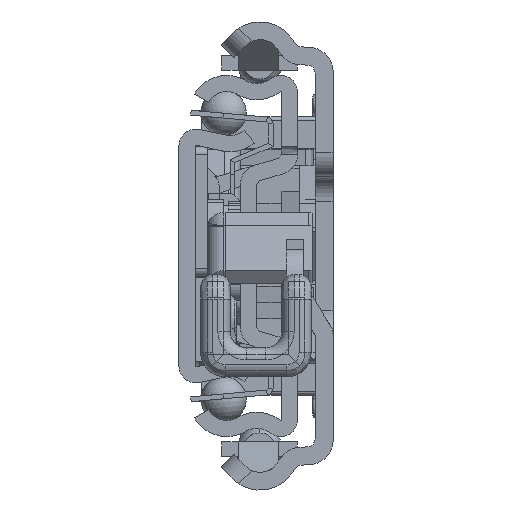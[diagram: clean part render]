
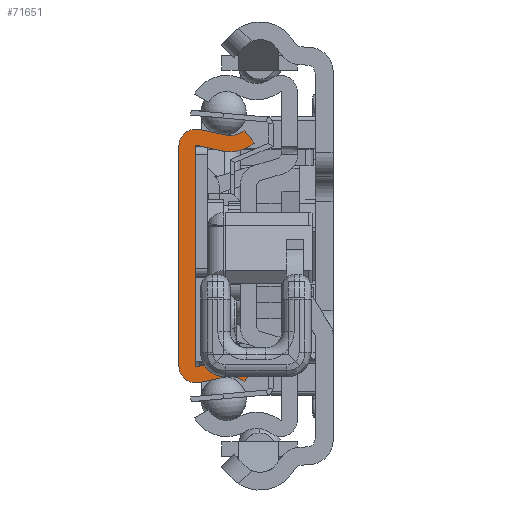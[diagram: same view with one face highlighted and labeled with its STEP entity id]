
A CAD part, left-side view. The second image highlights one B-rep face of the part: STEP entity #71651.
In plain terms, the highlighted planar face has unit normal (-1, 0, 0).
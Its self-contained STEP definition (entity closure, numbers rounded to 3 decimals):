
#66412=CARTESIAN_POINT('',(0.,-6.29,-17.65));
#66413=DIRECTION('',(-1.,0.,0.));
#66414=DIRECTION('',(0.,-0.629,0.778));
#66415=AXIS2_PLACEMENT_3D('',#66412,#66413,#66414);
#66417=DIRECTION('',(0.,0.977,-0.213));
#66418=VECTOR('',#66417,3.218);
#66419=CARTESIAN_POINT('',(0.,-5.692,-14.915));
#66420=LINE('',#66419,#66418);
#66421=CARTESIAN_POINT('',(0.,-2.1,-13.55));
#66422=DIRECTION('',(1.,0.,0.));
#66423=DIRECTION('',(0.,-0.213,-0.977));
#66424=AXIS2_PLACEMENT_3D('',#66421,#66422,#66423);
#66426=DIRECTION('',(0.,0.,1.));
#66427=VECTOR('',#66426,27.1);
#66428=CARTESIAN_POINT('',(0.,0.,-13.55));
#66429=LINE('',#66428,#66427);
#66430=CARTESIAN_POINT('',(0.,-2.1,13.55));
#66431=DIRECTION('',(1.,0.,0.));
#66432=DIRECTION('',(0.,1.,0.));
#66433=AXIS2_PLACEMENT_3D('',#66430,#66431,#66432);
#66435=DIRECTION('',(0.,-0.977,-0.213));
#66436=VECTOR('',#66435,3.218);
#66437=CARTESIAN_POINT('',(0.,-2.548,15.602));
#66438=LINE('',#66437,#66436);
#66439=CARTESIAN_POINT('',(0.,-6.29,17.65));
#66440=DIRECTION('',(-1.,0.,0.));
#66441=DIRECTION('',(0.,0.213,-0.977));
#66442=AXIS2_PLACEMENT_3D('',#66439,#66440,#66441);
#66444=DIRECTION('',(0.,-0.629,-0.778));
#66445=VECTOR('',#66444,2.);
#66446=CARTESIAN_POINT('',(0.,-8.05,15.472));
#66447=LINE('',#66446,#66445);
#66448=CARTESIAN_POINT('',(0.,-6.29,17.65));
#66449=DIRECTION('',(1.,0.,0.));
#66450=DIRECTION('',(0.,-0.629,-0.778));
#66451=AXIS2_PLACEMENT_3D('',#66448,#66449,#66450);
#66453=DIRECTION('',(0.,0.977,0.213));
#66454=VECTOR('',#66453,3.218);
#66455=CARTESIAN_POINT('',(0.,-5.265,12.961));
#66456=LINE('',#66455,#66454);
#66457=CARTESIAN_POINT('',(0.,-2.1,13.55));
#66458=DIRECTION('',(-1.,0.,0.));
#66459=DIRECTION('',(0.,-0.213,0.977));
#66460=AXIS2_PLACEMENT_3D('',#66457,#66458,#66459);
#66462=DIRECTION('',(0.,0.,-1.));
#66463=VECTOR('',#66462,27.1);
#66464=CARTESIAN_POINT('',(0.,-2.,13.55));
#66465=LINE('',#66464,#66463);
#66466=CARTESIAN_POINT('',(0.,-2.1,-13.55));
#66467=DIRECTION('',(-1.,0.,0.));
#66468=DIRECTION('',(0.,1.,0.));
#66469=AXIS2_PLACEMENT_3D('',#66466,#66467,#66468);
#66471=DIRECTION('',(0.,-0.977,0.213));
#66472=VECTOR('',#66471,3.218);
#66473=CARTESIAN_POINT('',(0.,-2.121,-13.648));
#66474=LINE('',#66473,#66472);
#66475=CARTESIAN_POINT('',(0.,-6.29,-17.65));
#66476=DIRECTION('',(1.,0.,0.));
#66477=DIRECTION('',(0.,0.213,0.977));
#66478=AXIS2_PLACEMENT_3D('',#66475,#66476,#66477);
#66480=DIRECTION('',(0.,0.629,-0.778));
#66481=VECTOR('',#66480,2.);
#66482=CARTESIAN_POINT('',(0.,-9.307,-13.917));
#66483=LINE('',#66482,#66481);
#70104=CARTESIAN_POINT('',(0.,-8.05,-15.472));
#70105=CARTESIAN_POINT('',(0.,-5.692,-14.915));
#70106=VERTEX_POINT('',#70104);
#70107=VERTEX_POINT('',#70105);
#70108=CARTESIAN_POINT('',(0.,-2.548,-15.602));
#70109=VERTEX_POINT('',#70108);
#70110=CARTESIAN_POINT('',(0.,0.,-13.55));
#70111=VERTEX_POINT('',#70110);
#70112=CARTESIAN_POINT('',(0.,0.,13.55));
#70113=VERTEX_POINT('',#70112);
#70114=CARTESIAN_POINT('',(0.,-2.548,15.602));
#70115=VERTEX_POINT('',#70114);
#70116=CARTESIAN_POINT('',(0.,-5.692,14.915));
#70117=VERTEX_POINT('',#70116);
#70118=CARTESIAN_POINT('',(0.,-8.05,15.472));
#70119=VERTEX_POINT('',#70118);
#70120=CARTESIAN_POINT('',(0.,-9.307,13.917));
#70121=VERTEX_POINT('',#70120);
#70122=CARTESIAN_POINT('',(0.,-5.265,12.961));
#70123=VERTEX_POINT('',#70122);
#70124=CARTESIAN_POINT('',(0.,-2.121,13.648));
#70125=VERTEX_POINT('',#70124);
#70126=CARTESIAN_POINT('',(0.,-2.,13.55));
#70127=VERTEX_POINT('',#70126);
#70128=CARTESIAN_POINT('',(0.,-2.,-13.55));
#70129=VERTEX_POINT('',#70128);
#70130=CARTESIAN_POINT('',(0.,-2.121,-13.648));
#70131=VERTEX_POINT('',#70130);
#70132=CARTESIAN_POINT('',(0.,-5.265,-12.961));
#70133=VERTEX_POINT('',#70132);
#70134=CARTESIAN_POINT('',(0.,-9.307,-13.917));
#70135=VERTEX_POINT('',#70134);
#71613=CARTESIAN_POINT('',(0.,0.,0.));
#71614=DIRECTION('',(1.,0.,0.));
#71615=DIRECTION('',(0.,-1.,0.));
#71616=AXIS2_PLACEMENT_3D('',#71613,#71614,#71615);
#71617=PLANE('',#71616);
#71619=ORIENTED_EDGE('',*,*,#71618,.T.);
#71621=ORIENTED_EDGE('',*,*,#71620,.T.);
#71623=ORIENTED_EDGE('',*,*,#71622,.T.);
#71624=ORIENTED_EDGE('',*,*,#71198,.T.);
#71626=ORIENTED_EDGE('',*,*,#71625,.T.);
#71628=ORIENTED_EDGE('',*,*,#71627,.T.);
#71630=ORIENTED_EDGE('',*,*,#71629,.T.);
#71632=ORIENTED_EDGE('',*,*,#71631,.T.);
#71634=ORIENTED_EDGE('',*,*,#71633,.T.);
#71636=ORIENTED_EDGE('',*,*,#71635,.T.);
#71638=ORIENTED_EDGE('',*,*,#71637,.T.);
#71640=ORIENTED_EDGE('',*,*,#71639,.T.);
#71642=ORIENTED_EDGE('',*,*,#71641,.T.);
#71644=ORIENTED_EDGE('',*,*,#71643,.T.);
#71646=ORIENTED_EDGE('',*,*,#71645,.T.);
#71648=ORIENTED_EDGE('',*,*,#71647,.T.);
#71649=EDGE_LOOP('',(#71619,#71621,#71623,#71624,#71626,#71628,#71630,#71632,
#71634,#71636,#71638,#71640,#71642,#71644,#71646,#71648));
#71650=FACE_OUTER_BOUND('',#71649,.F.);
#66416=CIRCLE('',#66415,2.8);
#66425=CIRCLE('',#66424,2.1);
#66434=CIRCLE('',#66433,2.1);
#66443=CIRCLE('',#66442,2.8);
#66452=CIRCLE('',#66451,4.8);
#66461=CIRCLE('',#66460,0.1);
#66470=CIRCLE('',#66469,0.1);
#66479=CIRCLE('',#66478,4.8);
#71198=EDGE_CURVE('',#70111,#70113,#66429,.T.);
#71618=EDGE_CURVE('',#70106,#70107,#66416,.T.);
#71620=EDGE_CURVE('',#70107,#70109,#66420,.T.);
#71622=EDGE_CURVE('',#70109,#70111,#66425,.T.);
#71625=EDGE_CURVE('',#70113,#70115,#66434,.T.);
#71627=EDGE_CURVE('',#70115,#70117,#66438,.T.);
#71629=EDGE_CURVE('',#70117,#70119,#66443,.T.);
#71631=EDGE_CURVE('',#70119,#70121,#66447,.T.);
#71633=EDGE_CURVE('',#70121,#70123,#66452,.T.);
#71635=EDGE_CURVE('',#70123,#70125,#66456,.T.);
#71637=EDGE_CURVE('',#70125,#70127,#66461,.T.);
#71639=EDGE_CURVE('',#70127,#70129,#66465,.T.);
#71641=EDGE_CURVE('',#70129,#70131,#66470,.T.);
#71643=EDGE_CURVE('',#70131,#70133,#66474,.T.);
#71645=EDGE_CURVE('',#70133,#70135,#66479,.T.);
#71647=EDGE_CURVE('',#70135,#70106,#66483,.T.);
#71651=ADVANCED_FACE('',(#71650),#71617,.F.);
